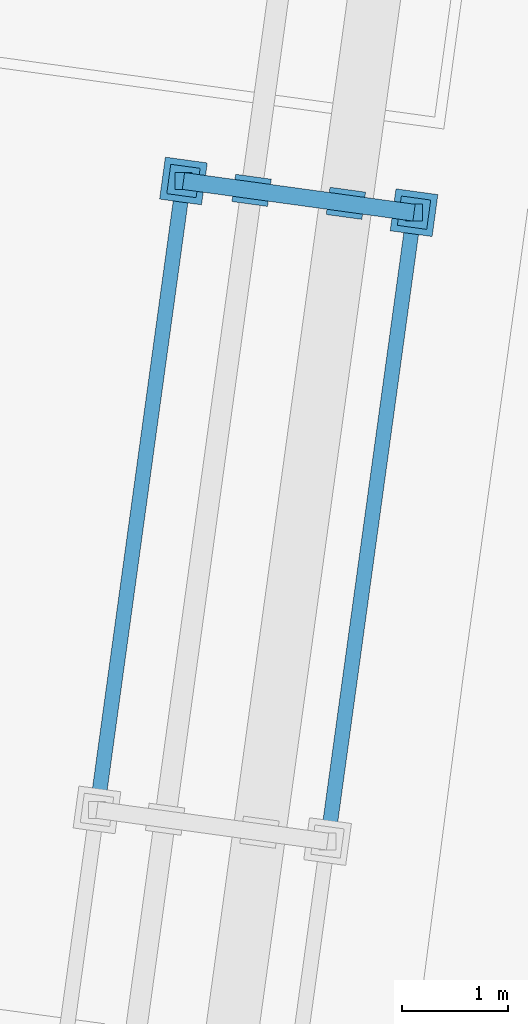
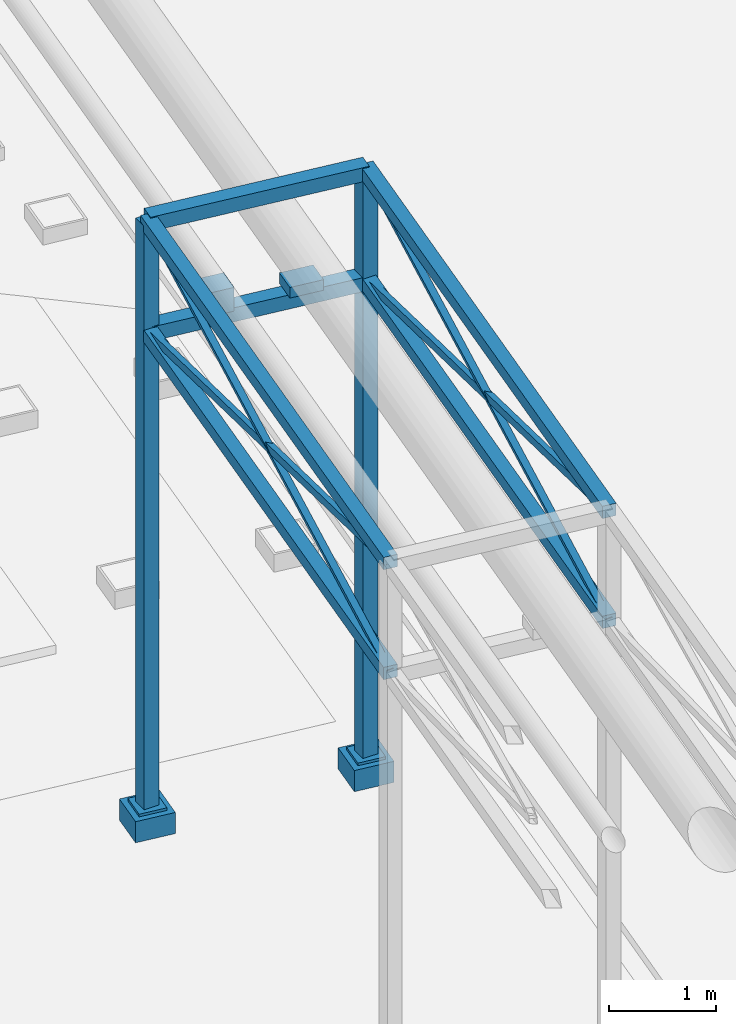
# Not in any storey, part 24 of 75: 2 assemblies.
"""IFC4 model written with IfcOpenShell, lengths in metres."""

from ifc_helpers import new_model, si_unit, direction, origin, origin_with_axes, place, context, subcontext, project, spatial, triangles, element, save


model = new_model("IFC4")

# Units and contexts
model_context = context("Model", 3, precision=1e-05, world=origin_with_axes(), true_north=direction((0.0, 1.0)))
body_context = subcontext(model_context, "Body", "Model", "MODEL_VIEW")
ifc_project = project(units=[si_unit("AREAUNIT", "SQUARE_METRE"), si_unit("VOLUMEUNIT", "CUBIC_METRE"), si_unit("LENGTHUNIT", "METRE")], contexts=[model_context])

# Site
site_placement = place(None, origin_with_axes())
site = spatial("IfcSite", under=ifc_project, at=site_placement, Name="Parcela industrial Jinhong")

# Assemblies
assembly_1_placement = place(None, origin())
element("IfcElementAssembly", 1, at=assembly_1_placement, inside=site, Name="Pórtico metálico de tuberías · 1", ObjectType="Pórtico metálico de tuberías · 1", PredefinedType="USERDEFINED", context=body_context, shape_type="Tessellation", body=[
    triangles([(56.922132, 34.931116, 1.1), (56.922132, 34.931116, 1.34), (57.318405, 34.876635, 1.1), (57.318405, 34.876635, 1.34), (56.867651, 34.534844, 1.1), (56.867651, 34.534844, 1.34), (57.263923, 34.480362, 1.1), (57.263923, 34.480362, 1.34)], [[2, 4, 1], [5, 2, 1], [1, 4, 3], [3, 5, 1], [2, 8, 4], [6, 2, 5], [6, 8, 2], [4, 8, 3], [7, 5, 3], [3, 8, 7], [7, 6, 5], [8, 6, 7]], closed=True),
    triangles([(57.013028, 34.625739, 1.34), (57.013028, 34.625739, 8.0), (57.013028, 34.785739, 1.34), (57.013028, 34.785739, 8.0), (57.173028, 34.625739, 1.34), (57.173028, 34.625739, 8.0), (57.173028, 34.785739, 1.34), (57.173028, 34.785739, 8.0)], [[2, 4, 1], [5, 2, 1], [1, 4, 3], [3, 5, 1], [2, 8, 4], [6, 2, 5], [6, 8, 2], [4, 8, 3], [7, 5, 3], [3, 8, 7], [7, 6, 5], [8, 6, 7]], closed=True),
    triangles([(56.973401, 34.863503, 1.34), (56.973401, 34.863503, 1.37), (57.250792, 34.825366, 1.34), (57.250792, 34.825366, 1.37), (56.935264, 34.586113, 1.34), (56.935264, 34.586113, 1.37), (57.212655, 34.547975, 1.34), (57.212655, 34.547975, 1.37)], [[2, 4, 1], [5, 2, 1], [1, 4, 3], [3, 5, 1], [2, 8, 4], [6, 2, 5], [6, 8, 2], [4, 8, 3], [7, 5, 3], [3, 8, 7], [7, 6, 5], [8, 6, 7]], closed=True),
    triangles([(59.10163, 34.631468, 1.1), (59.10163, 34.631468, 1.34), (59.497903, 34.576986, 1.1), (59.497903, 34.576986, 1.34), (59.047149, 34.235195, 1.1), (59.047149, 34.235195, 1.34), (59.443421, 34.180714, 1.1), (59.443421, 34.180714, 1.34)], [[2, 4, 1], [5, 2, 1], [1, 4, 3], [3, 5, 1], [2, 8, 4], [6, 2, 5], [6, 8, 2], [4, 8, 3], [7, 5, 3], [3, 8, 7], [7, 6, 5], [8, 6, 7]], closed=True),
    triangles([(59.192526, 34.326091, 1.34), (59.192526, 34.326091, 8.0), (59.192526, 34.486091, 1.34), (59.192526, 34.486091, 8.0), (59.352526, 34.326091, 1.34), (59.352526, 34.326091, 8.0), (59.352526, 34.486091, 1.34), (59.352526, 34.486091, 8.0)], [[2, 4, 1], [5, 2, 1], [1, 4, 3], [3, 5, 1], [2, 8, 4], [6, 2, 5], [6, 8, 2], [4, 8, 3], [7, 5, 3], [3, 8, 7], [7, 6, 5], [8, 6, 7]], closed=True),
    triangles([(59.152899, 34.563855, 1.34), (59.152899, 34.563855, 1.37), (59.43029, 34.525718, 1.34), (59.43029, 34.525718, 1.37), (59.114762, 34.286464, 1.34), (59.114762, 34.286464, 1.37), (59.392152, 34.248327, 1.34), (59.392152, 34.248327, 1.37)], [[2, 4, 1], [5, 2, 1], [1, 4, 3], [3, 5, 1], [2, 8, 4], [6, 2, 5], [6, 8, 2], [4, 8, 3], [7, 5, 3], [3, 8, 7], [7, 6, 5], [8, 6, 7]], closed=True),
    triangles([(57.082132, 34.626485, 6.83), (59.261629, 34.326836, 6.83), (57.103924, 34.784994, 6.83), (59.283422, 34.485345, 6.83), (57.082132, 34.626485, 6.67), (59.261629, 34.326836, 6.67), (57.103924, 34.784994, 6.67), (59.283422, 34.485345, 6.67)], [[2, 4, 1], [5, 2, 1], [1, 4, 3], [3, 5, 1], [2, 8, 4], [6, 2, 5], [6, 8, 2], [4, 8, 3], [7, 5, 3], [3, 8, 7], [7, 6, 5], [8, 6, 7]], closed=True),
    triangles([(57.082132, 34.626485, 8.08), (59.261629, 34.326836, 8.08), (57.103924, 34.784994, 8.08), (59.283422, 34.485345, 8.08), (57.082132, 34.626485, 7.92), (59.261629, 34.326836, 7.92), (57.103924, 34.784994, 7.92), (59.283422, 34.485345, 7.92)], [[2, 4, 1], [5, 2, 1], [1, 4, 3], [3, 5, 1], [2, 8, 4], [6, 2, 5], [6, 8, 2], [4, 8, 3], [7, 5, 3], [3, 8, 7], [7, 6, 5], [8, 6, 7]], closed=True),
    triangles([(58.477874, 34.646566, 6.83), (58.477874, 34.646566, 6.95), (58.814705, 34.600257, 6.83), (58.814705, 34.600257, 6.95), (58.442461, 34.388989, 6.83), (58.442461, 34.388989, 6.95), (58.779292, 34.34268, 6.83), (58.779292, 34.34268, 6.95)], [[2, 4, 1], [5, 2, 1], [1, 4, 3], [3, 5, 1], [2, 8, 4], [6, 2, 5], [6, 8, 2], [4, 8, 3], [7, 5, 3], [3, 8, 7], [7, 6, 5], [8, 6, 7]], closed=True),
    triangles([(57.586261, 34.76915, 6.83), (57.586261, 34.76915, 7.1), (57.923093, 34.722841, 6.83), (57.923093, 34.722841, 7.1), (57.550848, 34.511573, 6.83), (57.550848, 34.511573, 7.1), (57.88768, 34.465264, 6.83), (57.88768, 34.465264, 7.1)], [[2, 4, 1], [5, 2, 1], [1, 4, 3], [3, 5, 1], [2, 8, 4], [6, 2, 5], [6, 8, 2], [4, 8, 3], [7, 5, 3], [3, 8, 7], [7, 6, 5], [8, 6, 7]], closed=True),
])
assembly_2_placement = place(None, origin())
element("IfcElementAssembly", 2, at=assembly_2_placement, inside=site, Name="Vigas y arriostramiento lateral · tramo 1", ObjectType="Vigas y arriostramiento lateral · tramo 1", PredefinedType="USERDEFINED", context=body_context, shape_type="Tessellation", body=[
    triangles([(57.162375, 34.696205, 6.68), (56.345152, 28.75212, 6.68), (57.02368, 34.715274, 6.68), (56.206457, 28.771189, 6.68), (57.162375, 34.696205, 6.82), (56.345152, 28.75212, 6.82), (57.02368, 34.715274, 6.82), (56.206457, 28.771189, 6.82)], [[2, 4, 1], [5, 2, 1], [1, 4, 3], [3, 5, 1], [2, 8, 4], [6, 2, 5], [6, 8, 2], [4, 8, 3], [7, 5, 3], [3, 8, 7], [7, 6, 5], [8, 6, 7]], closed=True),
    triangles([(57.162375, 34.696205, 7.93), (56.345152, 28.75212, 7.93), (57.02368, 34.715274, 7.93), (56.206457, 28.771189, 7.93), (57.162375, 34.696205, 8.07), (56.345152, 28.75212, 8.07), (57.02368, 34.715274, 8.07), (56.206457, 28.771189, 8.07)], [[2, 4, 1], [5, 2, 1], [1, 4, 3], [3, 5, 1], [2, 8, 4], [6, 2, 5], [6, 8, 2], [4, 8, 3], [7, 5, 3], [3, 8, 7], [7, 6, 5], [8, 6, 7]], closed=True),
    triangles([(57.119834, 34.693679, 6.710176), (56.302611, 28.749594, 7.960176), (57.051944, 34.705582, 6.722393), (56.234721, 28.761497, 7.972393), (57.134111, 34.705896, 6.777607), (56.316888, 28.761811, 8.027607), (57.066221, 34.7178, 6.789824), (56.248998, 28.773715, 8.039824)], [[2, 4, 1], [5, 2, 1], [1, 4, 3], [3, 5, 1], [2, 8, 4], [6, 2, 5], [6, 8, 2], [4, 8, 3], [7, 5, 3], [3, 8, 7], [7, 6, 5], [8, 6, 7]], closed=True),
    triangles([(57.134111, 34.705896, 7.972393), (56.316888, 28.761811, 6.722393), (57.066221, 34.7178, 7.960176), (56.248998, 28.773715, 6.710176), (57.119834, 34.693679, 8.039824), (56.302611, 28.749594, 6.789824), (57.051944, 34.705582, 8.027607), (56.234721, 28.761497, 6.777607)], [[2, 4, 1], [5, 2, 1], [1, 4, 3], [3, 5, 1], [2, 8, 4], [6, 2, 5], [6, 8, 2], [4, 8, 3], [7, 5, 3], [3, 8, 7], [7, 6, 5], [8, 6, 7]], closed=True),
    triangles([(59.341873, 34.396556, 6.68), (58.52465, 28.452472, 6.68), (59.203178, 34.415625, 6.68), (58.385955, 28.47154, 6.68), (59.341873, 34.396556, 6.82), (58.52465, 28.452472, 6.82), (59.203178, 34.415625, 6.82), (58.385955, 28.47154, 6.82)], [[2, 4, 1], [5, 2, 1], [1, 4, 3], [3, 5, 1], [2, 8, 4], [6, 2, 5], [6, 8, 2], [4, 8, 3], [7, 5, 3], [3, 8, 7], [7, 6, 5], [8, 6, 7]], closed=True),
    triangles([(59.341873, 34.396556, 7.93), (58.52465, 28.452472, 7.93), (59.203178, 34.415625, 7.93), (58.385955, 28.47154, 7.93), (59.341873, 34.396556, 8.07), (58.52465, 28.452472, 8.07), (59.203178, 34.415625, 8.07), (58.385955, 28.47154, 8.07)], [[2, 4, 1], [5, 2, 1], [1, 4, 3], [3, 5, 1], [2, 8, 4], [6, 2, 5], [6, 8, 2], [4, 8, 3], [7, 5, 3], [3, 8, 7], [7, 6, 5], [8, 6, 7]], closed=True),
    triangles([(59.299332, 34.394031, 6.710176), (58.482109, 28.449946, 7.960176), (59.231442, 34.405934, 6.722393), (58.414219, 28.461849, 7.972393), (59.313609, 34.406248, 6.777607), (58.496386, 28.462163, 8.027607), (59.245719, 34.418151, 6.789824), (58.428496, 28.474066, 8.039824)], [[2, 4, 1], [5, 2, 1], [1, 4, 3], [3, 5, 1], [2, 8, 4], [6, 2, 5], [6, 8, 2], [4, 8, 3], [7, 5, 3], [3, 8, 7], [7, 6, 5], [8, 6, 7]], closed=True),
    triangles([(59.313609, 34.406248, 7.972393), (58.496386, 28.462163, 6.722393), (59.245719, 34.418151, 7.960176), (58.428496, 28.474066, 6.710176), (59.299332, 34.394031, 8.039824), (58.482109, 28.449946, 6.789824), (59.231442, 34.405934, 8.027607), (58.414219, 28.461849, 6.777607)], [[2, 4, 1], [5, 2, 1], [1, 4, 3], [3, 5, 1], [2, 8, 4], [6, 2, 5], [6, 8, 2], [4, 8, 3], [7, 5, 3], [3, 8, 7], [7, 6, 5], [8, 6, 7]], closed=True),
])

save(model, "model.ifc")
